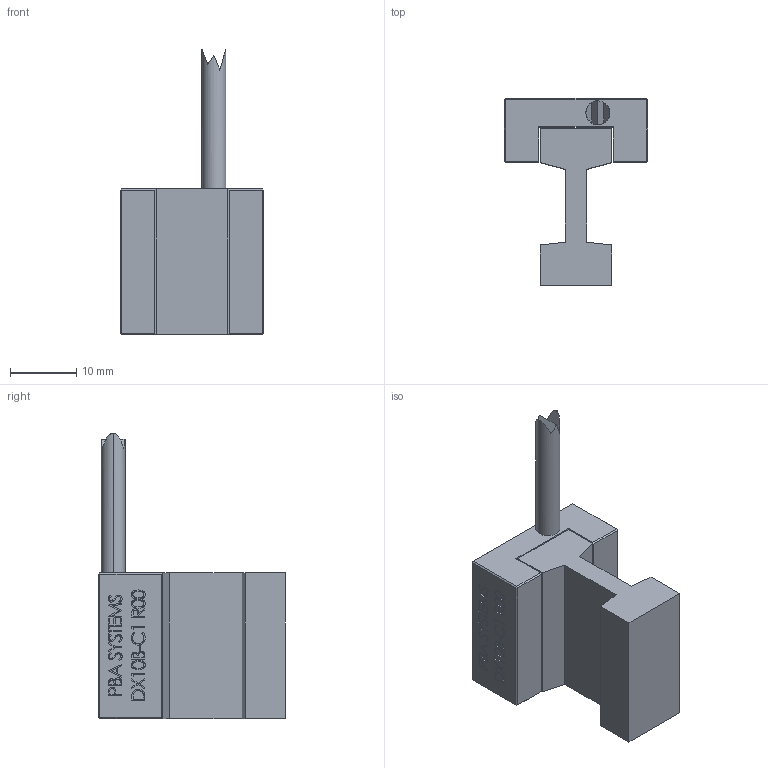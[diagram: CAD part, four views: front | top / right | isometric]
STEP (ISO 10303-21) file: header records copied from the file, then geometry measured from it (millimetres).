
FILE_DESCRIPTION (( 'STEP AP203' ), '1' );
FILE_NAME ('DX10B-C1-000.STEP', '2015-05-28T01:03:50', ( 'PBAsystems' ), ( '' ), 'SwSTEP 2.0', 'SolidWorks 2013', '' );
FILE_SCHEMA (( 'CONFIG_CONTROL_DESIGN' ));
Length unit declared in the file: millimetre
Products named in the file (4): DX10B-C1-001_CUSTOMER; CBL_MTR_HALL_SS_5C_SA (#2935-1); DX10B-CX-002_C1; DX10B-C1-000
Assembly tree (3 placements, depth 2):
  DX10B-C1-000
    DX10B-C1-001_CUSTOMER
    CBL_MTR_HALL_SS_5C_SA (#2935-1)
    DX10B-CX-002_C1
Bounding box: 21.6 x 28.19 x 43 mm (x, y, z)
Volume: 7016.9 mm3; surface area: 4711 mm2
Topology: 3 solids, 3 shells, 642 faces, 1673 edges, 1098 vertices
Faces by surface type: plane 380, bspline 234, cone 16, cylinder 12
Entity records: 32885 total; most frequent: CARTESIAN_POINT 18373, ORIENTED_EDGE 3330, DIRECTION 2047, EDGE_CURVE 1665, VECTOR 1159, LINE 1159, VERTEX_POINT 1098, EDGE_LOOP 711
